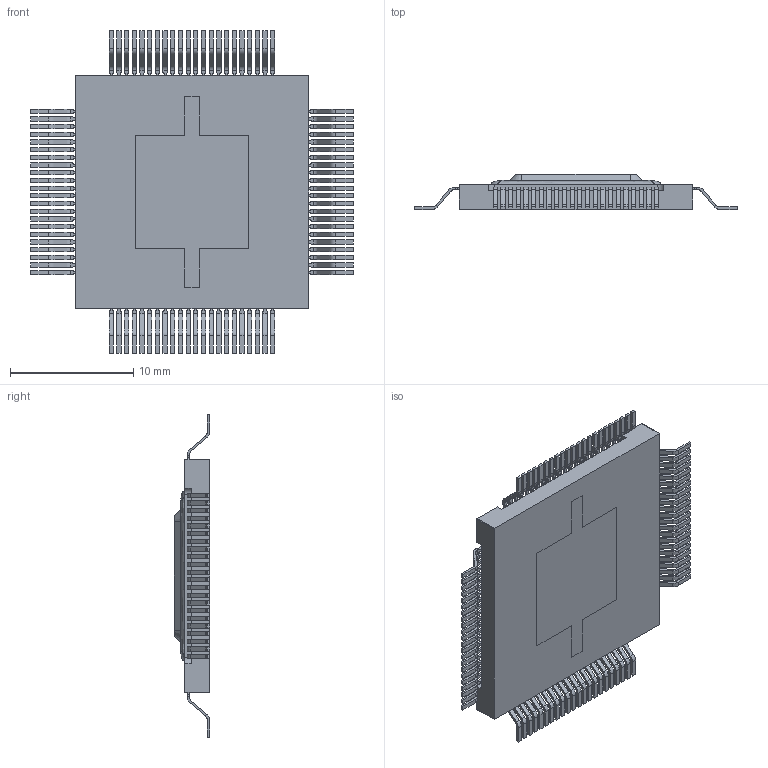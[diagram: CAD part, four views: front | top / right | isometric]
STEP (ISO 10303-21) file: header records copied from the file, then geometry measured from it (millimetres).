
FILE_DESCRIPTION(('STEP AP214'), '1');
FILE_NAME('1273ﾏﾀ13ﾒ', '', ('UNSPECIFIED'), ('UNSPECIFIED'), 'ASCON STEP Converter 1.6', 'ASCON Math Kernel', '');
FILE_SCHEMA(('AUTOMOTIVE_DESIGN { 1 0 10303 214 3 1 1}'));
Length unit declared in the file: millimetre
Bounding box: 26.2 x 2.85 x 26.2 mm (x, y, z)
Volume: 832.8 mm3; surface area: 2049.8 mm2
Topology: 135 solids, 135 shells, 2915 faces, 7821 edges, 5210 vertices
Faces by surface type: plane 2061, cylinder 652, bspline 184, extrusion 10, cone 4, torus 4
Full cylindrical faces by diameter (mm): 0.7 x1
Entity records: 127517 total; most frequent: CARTESIAN_POINT 30580, ORIENTED_EDGE 15632, DIRECTION 14204, EDGE_CURVE 7816, VECTOR 6124, LINE 6114, VERTEX_POINT 5210, AXIS2_PLACEMENT_3D 4040
